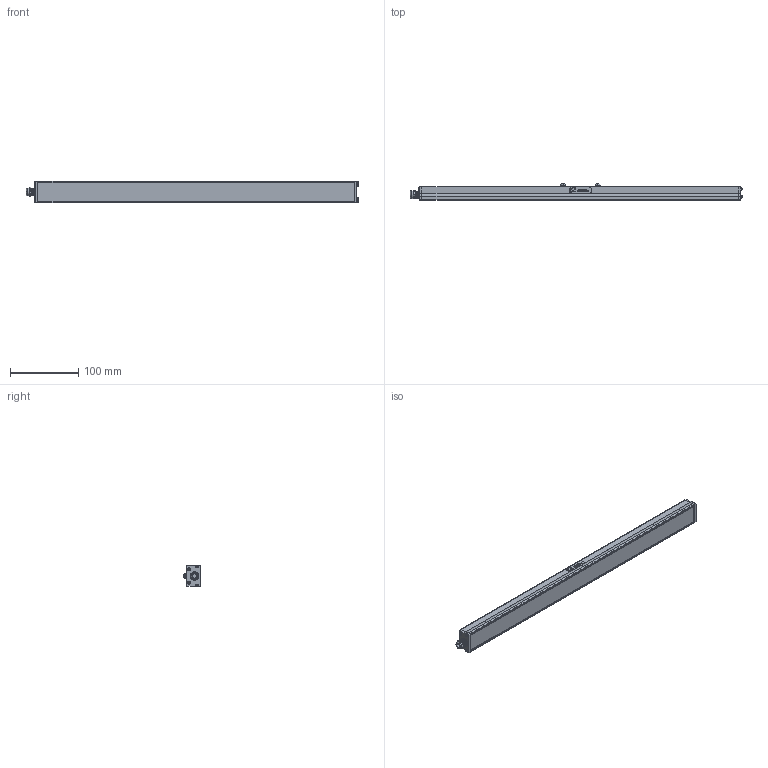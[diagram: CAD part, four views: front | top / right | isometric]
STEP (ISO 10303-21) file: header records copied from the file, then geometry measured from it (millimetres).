
FILE_DESCRIPTION (( 'STEP AP214' ), '1' );
FILE_NAME ('AL116 _NONSEALED__ALL11618.stp', '2021-04-29T14:22:17', ( '' ), ( '' ), 'SwSTEP 2.0', 'SolidWorks 2018', '' );
FILE_SCHEMA (( 'AUTOMOTIVE_DESIGN' ));
Length unit declared in the file: inch
Products named in the file (15): 091052 (116 126); 10mm Label (116 126)_Default<As Machined>; 10mm Advanced illumination; 093474_093474; 10mm Swish_Default<As Machined>; AL116 _NONSEALED__ALL11618; 10mm Ai; 090878-XX_090878-18; 091064_Model_Dome Fittings_Thread Type and Size(Dome)_M10 x 1.5_Hazardous Location-Explosive Proof(ATEX and EExe Versions)_No_; 093469_093469; BH-M4x6; 090870; 090869; HN-M4_90592A016; 090888-XX_090888-18
Assembly tree (24 placements, depth 3):
  AL116 _NONSEALED__ALL11618
    090888-XX_090888-18
    093469_093469  x2
    090869
    090870
    090878-XX_090878-18
    093474_093474  x8
    091064_Model_Dome Fittings_Thread Type and Size(Dome)_M10 x 1.5_Hazardous Location-Explosive Proof(ATEX and EExe Versions)_No_
    091052 (116 126)
      10mm Label (116 126)_Default<As Machined>
      10mm Ai
      10mm Swish_Default<As Machined>
      10mm Advanced illumination
    HN-M4_90592A016  x2
    BH-M4x6  x2
Bounding box: 486.33 x 24.1 x 32.21 mm (x, y, z)
Volume: 92300.1 mm3; surface area: 133639.2 mm2
Topology: 48 solids, 48 shells, 1911 faces, 4942 edges, 3078 vertices
Faces by surface type: cylinder 954, plane 413, cone 362, bspline 122, torus 60
Entity records: 31843 total; most frequent: CARTESIAN_POINT 11151, ORIENTED_EDGE 4280, DIRECTION 3753, EDGE_CURVE 2140, VERTEX_POINT 1366, AXIS2_PLACEMENT_3D 1335, VECTOR 1083, LINE 1083
